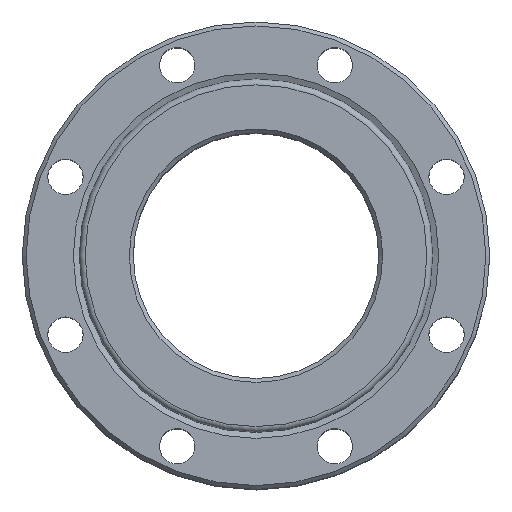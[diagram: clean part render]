
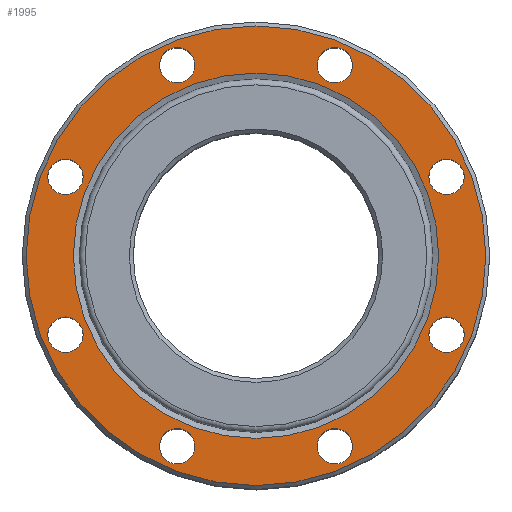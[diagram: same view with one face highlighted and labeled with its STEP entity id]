
A CAD part, top view. The second image highlights one B-rep face of the part: STEP entity #1995.
In plain terms, the highlighted planar face has unit normal (0, 0, 1).
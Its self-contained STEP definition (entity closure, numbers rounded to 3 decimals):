
#162=FACE_BOUND('',#384,.T.);
#163=FACE_BOUND('',#385,.T.);
#164=FACE_BOUND('',#386,.T.);
#165=FACE_BOUND('',#387,.T.);
#166=FACE_BOUND('',#388,.T.);
#167=FACE_BOUND('',#389,.T.);
#168=FACE_BOUND('',#390,.T.);
#169=FACE_BOUND('',#391,.T.);
#170=FACE_BOUND('',#392,.T.);
#179=PLANE('',#2160);
#249=FACE_OUTER_BOUND('',#383,.T.);
#383=EDGE_LOOP('',(#1348));
#384=EDGE_LOOP('',(#1349));
#385=EDGE_LOOP('',(#1350));
#386=EDGE_LOOP('',(#1351));
#387=EDGE_LOOP('',(#1352));
#388=EDGE_LOOP('',(#1353));
#389=EDGE_LOOP('',(#1354));
#390=EDGE_LOOP('',(#1355));
#391=EDGE_LOOP('',(#1356));
#392=EDGE_LOOP('',(#1357));
#705=CIRCLE('',#2159,117.);
#706=CIRCLE('',#2161,9.);
#707=CIRCLE('',#2162,9.);
#708=CIRCLE('',#2163,9.);
#709=CIRCLE('',#2164,9.);
#710=CIRCLE('',#2165,9.);
#711=CIRCLE('',#2166,9.);
#712=CIRCLE('',#2167,9.);
#713=CIRCLE('',#2168,9.);
#714=CIRCLE('',#2169,93.);
#850=VERTEX_POINT('',#2982);
#851=VERTEX_POINT('',#2986);
#852=VERTEX_POINT('',#2988);
#853=VERTEX_POINT('',#2990);
#854=VERTEX_POINT('',#2992);
#855=VERTEX_POINT('',#2994);
#856=VERTEX_POINT('',#2996);
#857=VERTEX_POINT('',#2998);
#858=VERTEX_POINT('',#3000);
#859=VERTEX_POINT('',#3002);
#1046=EDGE_CURVE('',#850,#850,#705,.T.);
#1047=EDGE_CURVE('',#851,#851,#706,.T.);
#1048=EDGE_CURVE('',#852,#852,#707,.T.);
#1049=EDGE_CURVE('',#853,#853,#708,.T.);
#1050=EDGE_CURVE('',#854,#854,#709,.T.);
#1051=EDGE_CURVE('',#855,#855,#710,.T.);
#1052=EDGE_CURVE('',#856,#856,#711,.T.);
#1053=EDGE_CURVE('',#857,#857,#712,.T.);
#1054=EDGE_CURVE('',#858,#858,#713,.T.);
#1055=EDGE_CURVE('',#859,#859,#714,.T.);
#1348=ORIENTED_EDGE('',*,*,#1046,.F.);
#1349=ORIENTED_EDGE('',*,*,#1047,.F.);
#1350=ORIENTED_EDGE('',*,*,#1048,.F.);
#1351=ORIENTED_EDGE('',*,*,#1049,.F.);
#1352=ORIENTED_EDGE('',*,*,#1050,.F.);
#1353=ORIENTED_EDGE('',*,*,#1051,.F.);
#1354=ORIENTED_EDGE('',*,*,#1052,.F.);
#1355=ORIENTED_EDGE('',*,*,#1053,.F.);
#1356=ORIENTED_EDGE('',*,*,#1054,.F.);
#1357=ORIENTED_EDGE('',*,*,#1055,.T.);
#1995=ADVANCED_FACE('',(#249,#162,#163,#164,#165,#166,#167,#168,#169,#170),
#179,.F.);
#2159=AXIS2_PLACEMENT_3D('',#2984,#2441,#2442);
#2160=AXIS2_PLACEMENT_3D('',#2985,#2443,#2444);
#2161=AXIS2_PLACEMENT_3D('',#2987,#2445,#2446);
#2162=AXIS2_PLACEMENT_3D('',#2989,#2447,#2448);
#2163=AXIS2_PLACEMENT_3D('',#2991,#2449,#2450);
#2164=AXIS2_PLACEMENT_3D('',#2993,#2451,#2452);
#2165=AXIS2_PLACEMENT_3D('',#2995,#2453,#2454);
#2166=AXIS2_PLACEMENT_3D('',#2997,#2455,#2456);
#2167=AXIS2_PLACEMENT_3D('',#2999,#2457,#2458);
#2168=AXIS2_PLACEMENT_3D('',#3001,#2459,#2460);
#2169=AXIS2_PLACEMENT_3D('',#3003,#2461,#2462);
#2441=DIRECTION('center_axis',(0.,0.,-1.));
#2442=DIRECTION('ref_axis',(-1.,0.,0.));
#2443=DIRECTION('center_axis',(0.,0.,-1.));
#2444=DIRECTION('ref_axis',(-1.,0.,0.));
#2445=DIRECTION('center_axis',(0.,0.,1.));
#2446=DIRECTION('ref_axis',(1.,0.,0.));
#2447=DIRECTION('center_axis',(0.,0.,1.));
#2448=DIRECTION('ref_axis',(1.,0.,0.));
#2449=DIRECTION('center_axis',(0.,0.,1.));
#2450=DIRECTION('ref_axis',(1.,0.,0.));
#2451=DIRECTION('center_axis',(0.,0.,1.));
#2452=DIRECTION('ref_axis',(1.,0.,0.));
#2453=DIRECTION('center_axis',(0.,0.,1.));
#2454=DIRECTION('ref_axis',(1.,0.,0.));
#2455=DIRECTION('center_axis',(0.,0.,1.));
#2456=DIRECTION('ref_axis',(1.,0.,0.));
#2457=DIRECTION('center_axis',(0.,0.,1.));
#2458=DIRECTION('ref_axis',(1.,0.,0.));
#2459=DIRECTION('center_axis',(0.,0.,1.));
#2460=DIRECTION('ref_axis',(1.,0.,0.));
#2461=DIRECTION('center_axis',(0.,0.,-1.));
#2462=DIRECTION('ref_axis',(0.,1.,0.));
#2982=CARTESIAN_POINT('',(117.,0.,78.5));
#2984=CARTESIAN_POINT('Origin',(0.,0.,78.5));
#2985=CARTESIAN_POINT('Origin',(0.,0.,78.5));
#2986=CARTESIAN_POINT('',(-106.007,40.182,78.5));
#2987=CARTESIAN_POINT('Origin',(-97.007,40.182,78.5));
#2988=CARTESIAN_POINT('',(-106.007,-40.182,78.5));
#2989=CARTESIAN_POINT('Origin',(-97.007,-40.182,78.5));
#2990=CARTESIAN_POINT('',(-49.182,-97.007,78.5));
#2991=CARTESIAN_POINT('Origin',(-40.182,-97.007,78.5));
#2992=CARTESIAN_POINT('',(31.182,-97.007,78.5));
#2993=CARTESIAN_POINT('Origin',(40.182,-97.007,78.5));
#2994=CARTESIAN_POINT('',(88.007,-40.182,78.5));
#2995=CARTESIAN_POINT('Origin',(97.007,-40.182,78.5));
#2996=CARTESIAN_POINT('',(88.007,40.182,78.5));
#2997=CARTESIAN_POINT('Origin',(97.007,40.182,78.5));
#2998=CARTESIAN_POINT('',(31.182,97.007,78.5));
#2999=CARTESIAN_POINT('Origin',(40.182,97.007,78.5));
#3000=CARTESIAN_POINT('',(-49.182,97.007,78.5));
#3001=CARTESIAN_POINT('Origin',(-40.182,97.007,78.5));
#3002=CARTESIAN_POINT('',(0.,-93.,78.5));
#3003=CARTESIAN_POINT('Origin',(0.,0.,78.5));
